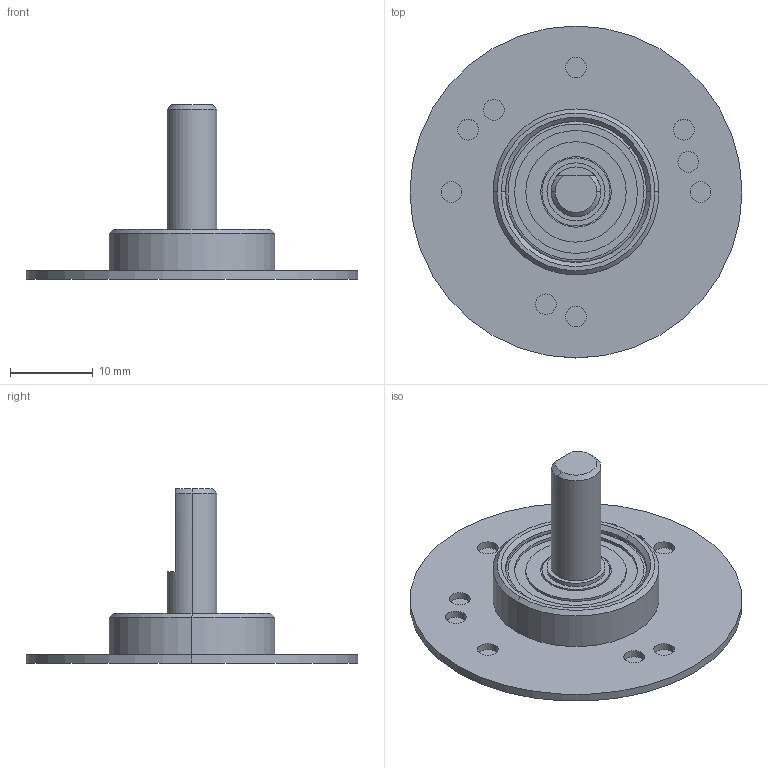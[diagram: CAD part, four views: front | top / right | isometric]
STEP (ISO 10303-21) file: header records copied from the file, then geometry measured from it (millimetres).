
FILE_DESCRIPTION (( 'STEP AP214' ), '1' );
FILE_NAME ('drawing-ucd-02m0-q3a-n.STEP', '2017-05-23T14:15:28', ( '' ), ( '' ), 'SwSTEP 2.0', 'SolidWorks 2017', '' );
FILE_SCHEMA (( 'AUTOMOTIVE_DESIGN' ));
Length unit declared in the file: millimetre
Products named in the file (1): drawing-ucd-02m0-q3a-n
Bounding box: 40 x 40 x 21 mm (x, y, z)
Volume: 2683.1 mm3; surface area: 4581.6 mm2
Topology: 8 solids, 9 shells, 137 faces, 341 edges, 208 vertices
Faces by surface type: cylinder 54, bspline 40, plane 36, cone 7
Entity records: 6761 total; most frequent: CARTESIAN_POINT 2263, ORIENTED_EDGE 626, DIRECTION 608, EDGE_CURVE 313, AXIS2_PLACEMENT_3D 271, VERTEX_POINT 208, CIRCLE 173, EDGE_LOOP 167
